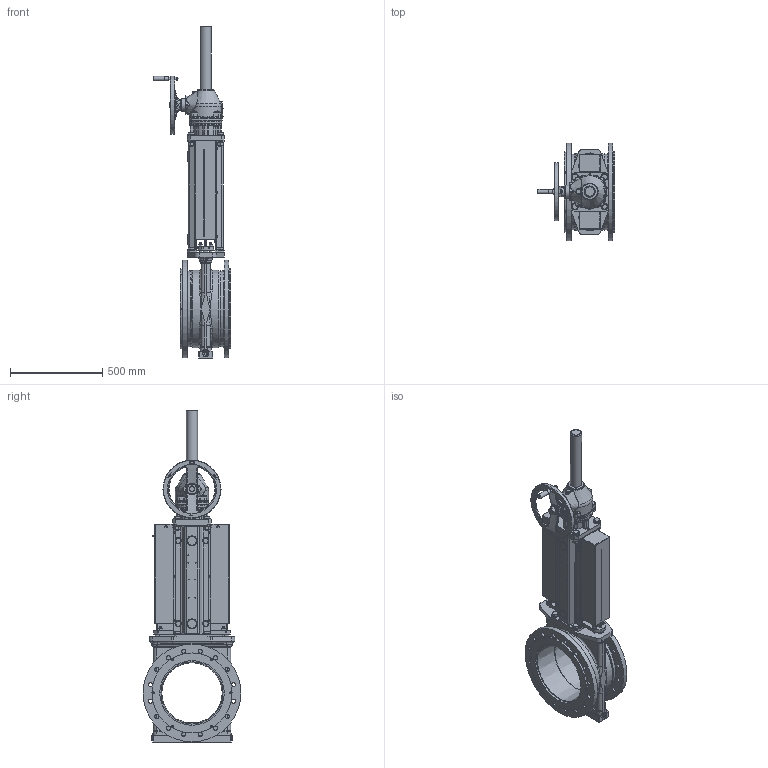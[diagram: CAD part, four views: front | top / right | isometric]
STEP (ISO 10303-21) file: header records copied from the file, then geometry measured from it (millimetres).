
FILE_DESCRIPTION(/* description */ (''),/* implementation_level */ '2;1');
FILE_NAME(/* name */ 'F:\3D-block färdiga för export\SLV-SLF\DN 350\SFL-DN350-PN10-BG-LDR.stp',/* time_stamp */ '2021-06-17T09:07:04+02:00',/* author */ ('MATZET'),/* organization */ (''),/* preprocessor_version */ 'ST-DEVELOPER v18',/* originating_system */ 'Autodesk Inventor 2020',/* authorisation */ '');
FILE_SCHEMA (('AUTOMOTIVE_DESIGN { 1 0 10303 214 3 1 1 }'));
Length unit declared in the file: millimetre
Products named in the file (1): SFL-DN350-PN10-BG-LDR
Bounding box: 422.4 x 530 x 1800.2 mm (x, y, z)
Volume: 35868362 mm3; surface area: 4614675.2 mm2
Topology: 1 solids, 1 shells, 3138 faces, 8139 edges, 5182 vertices
Faces by surface type: plane 1384, cylinder 762, bspline 408, cone 322, torus 200, sphere 62
Full cylindrical faces by diameter (mm): 2 x2, 2.459 x8, 3 x12, 3.5 x8, 4 x24, 5 x8, 6 x13, 6.647 x4, 7 x12, 7.5 x12, 8.376 x12, 8.88 x1, 10 x12, 10.106 x8, 11 x12, 12 x10, 13 x8, 14 x4, 14.63 x4, 15 x9, 18 x5, 19 x8, 20 x8, 20.5 x2, 22 x32, 23 x8, 24 x16, 24.117 x2, 25 x1, 26 x4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
Entity records: 246103 total; most frequent: CARTESIAN_POINT 168966, ORIENTED_EDGE 16010, DIRECTION 15171, EDGE_CURVE 8005, AXIS2_PLACEMENT_3D 5803, VERTEX_POINT 5180, EDGE_LOOP 3679, LINE 3565
